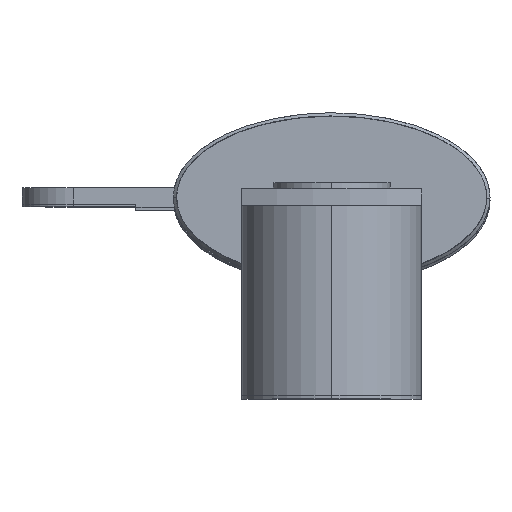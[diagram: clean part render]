
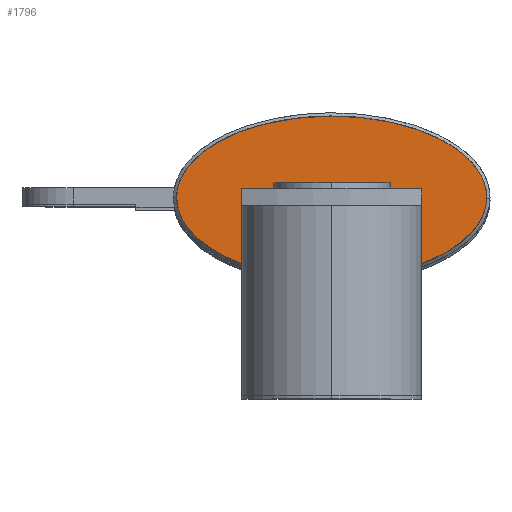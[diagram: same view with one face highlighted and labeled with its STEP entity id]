
A CAD part, top view. The second image highlights one B-rep face of the part: STEP entity #1796.
In plain terms, the highlighted planar face has unit normal (0, 0, 1).
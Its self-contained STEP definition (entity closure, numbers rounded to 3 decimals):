
#1010 = AXIS2_PLACEMENT_3D ( 'NONE', #4678, #4679, #4680 ) ;
#1298 = EDGE_LOOP ( 'NONE', ( #1387, #1388, #1389, #1390 ) ) ;
#1304 = EDGE_LOOP ( 'NONE', ( #1385, #1386 ) ) ;
#1385 = ORIENTED_EDGE ( 'NONE', *, *, #7457, .T. ) ;
#1386 = ORIENTED_EDGE ( 'NONE', *, *, #8849, .T. ) ;
#1387 = ORIENTED_EDGE ( 'NONE', *, *, #7448, .T. ) ;
#1388 = ORIENTED_EDGE ( 'NONE', *, *, #7458, .F. ) ;
#1389 = ORIENTED_EDGE ( 'NONE', *, *, #7431, .F. ) ;
#1390 = ORIENTED_EDGE ( 'NONE', *, *, #7459, .T. ) ;
#1766 =( BOUNDED_CURVE ( )  B_SPLINE_CURVE ( 3, ( #8710, #8693, #8694, #8712 ),
 .UNSPECIFIED., .F., .T. ) 
 B_SPLINE_CURVE_WITH_KNOTS ( ( 4, 4 ),
 ( 0., 3.142 ),
 .UNSPECIFIED. ) 
 CURVE ( )  GEOMETRIC_REPRESENTATION_ITEM ( )  RATIONAL_B_SPLINE_CURVE ( ( 1., 0.333, 0.333, 1. ) ) 
 REPRESENTATION_ITEM ( '' )  );
#1796 = ADVANCED_FACE ( 'NONE', ( #7698, #7702 ), #4670, .T. ) ;
#2193 = CARTESIAN_POINT ( 'NONE',  ( 4.76, 0., 26.185 ) ) ;
#2195 = CARTESIAN_POINT ( 'NONE',  ( 4.76, 5., 26.185 ) ) ;
#2201 = CARTESIAN_POINT ( 'NONE',  ( -4.76, 5., 26.185 ) ) ;
#2202 = CARTESIAN_POINT ( 'NONE',  ( -4.76, 0., 26.185 ) ) ;
#2243 = CARTESIAN_POINT ( 'NONE',  ( -2.77, 0.25, 26.185 ) ) ;
#2269 = CARTESIAN_POINT ( 'NONE',  ( -2.77, -0.25, 26.185 ) ) ;
#2281 = CARTESIAN_POINT ( 'NONE',  ( 2.77, 0.25, 26.185 ) ) ;
#2284 = CARTESIAN_POINT ( 'NONE',  ( 2.77, -0.25, 26.185 ) ) ;
#2297 = CARTESIAN_POINT ( 'NONE',  ( -4.76, 0., 26.185 ) ) ;
#2308 = CARTESIAN_POINT ( 'NONE',  ( 4.76, 0., 26.185 ) ) ;
#4670 = PLANE ( 'NONE',  #1010 ) ;
#4678 = CARTESIAN_POINT ( 'NONE',  ( 0., 0., 26.185 ) ) ;
#4679 = DIRECTION ( 'NONE',  ( 0., 0., 1. ) ) ;
#4680 = DIRECTION ( 'NONE',  ( 1., 0., 0. ) ) ;
#7431 = EDGE_CURVE ( 'NONE', #9247, #9218, #7999, .T. ) ;
#7448 = EDGE_CURVE ( 'NONE', #9250, #9235, #8025, .T. ) ;
#7457 = EDGE_CURVE ( 'NONE', #9263, #9274, #1766, .T. ) ;
#7458 = EDGE_CURVE ( 'NONE', #9218, #9235, #8040, .T. ) ;
#7459 = EDGE_CURVE ( 'NONE', #9247, #9250, #8043, .T. ) ;
#7698 = FACE_OUTER_BOUND ( 'NONE', #1304, .T. ) ;
#7702 = FACE_BOUND ( 'NONE', #1298, .T. ) ;
#7999 = LINE ( 'NONE', #8645, #8002 ) ;
#8002 = VECTOR ( 'NONE', #8646, 1000. ) ;
#8025 = LINE ( 'NONE', #8682, #8029 ) ;
#8029 = VECTOR ( 'NONE', #8688, 1000. ) ;
#8040 = LINE ( 'NONE', #8711, #8042 ) ;
#8042 = VECTOR ( 'NONE', #8713, 1000. ) ;
#8043 = LINE ( 'NONE', #8715, #8044 ) ;
#8044 = VECTOR ( 'NONE', #8716, 1000. ) ;
#8122 =( BOUNDED_CURVE ( )  B_SPLINE_CURVE ( 3, ( #2193, #2195, #2201, #2202 ),
 .UNSPECIFIED., .F., .T. ) 
 B_SPLINE_CURVE_WITH_KNOTS ( ( 4, 4 ),
 ( 3.142, 6.283 ),
 .UNSPECIFIED. ) 
 CURVE ( )  GEOMETRIC_REPRESENTATION_ITEM ( )  RATIONAL_B_SPLINE_CURVE ( ( 1., 0.333, 0.333, 1. ) ) 
 REPRESENTATION_ITEM ( '' )  );
#8645 = CARTESIAN_POINT ( 'NONE',  ( -2.77, 0.25, 26.185 ) ) ;
#8646 = DIRECTION ( 'NONE',  ( -1., 0., 0. ) ) ;
#8682 = CARTESIAN_POINT ( 'NONE',  ( -2.77, -0.25, 26.185 ) ) ;
#8688 = DIRECTION ( 'NONE',  ( -1., 0., 0. ) ) ;
#8693 = CARTESIAN_POINT ( 'NONE',  ( -4.76, -5., 26.185 ) ) ;
#8694 = CARTESIAN_POINT ( 'NONE',  ( 4.76, -5., 26.185 ) ) ;
#8710 = CARTESIAN_POINT ( 'NONE',  ( -4.76, 0., 26.185 ) ) ;
#8711 = CARTESIAN_POINT ( 'NONE',  ( -2.77, 0.25, 26.185 ) ) ;
#8712 = CARTESIAN_POINT ( 'NONE',  ( 4.76, 0., 26.185 ) ) ;
#8713 = DIRECTION ( 'NONE',  ( 0., -1., 0. ) ) ;
#8715 = CARTESIAN_POINT ( 'NONE',  ( 2.77, 0.25, 26.185 ) ) ;
#8716 = DIRECTION ( 'NONE',  ( 0., -1., 0. ) ) ;
#8849 = EDGE_CURVE ( 'NONE', #9274, #9263, #8122, .T. ) ;
#9218 = VERTEX_POINT ( 'NONE', #2243 ) ;
#9235 = VERTEX_POINT ( 'NONE', #2269 ) ;
#9247 = VERTEX_POINT ( 'NONE', #2281 ) ;
#9250 = VERTEX_POINT ( 'NONE', #2284 ) ;
#9263 = VERTEX_POINT ( 'NONE', #2297 ) ;
#9274 = VERTEX_POINT ( 'NONE', #2308 ) ;
